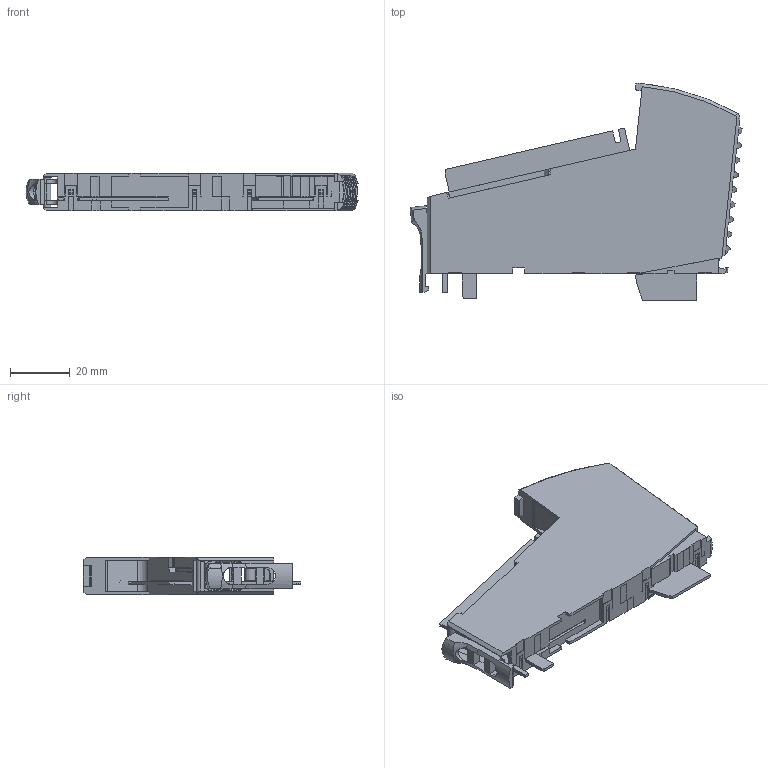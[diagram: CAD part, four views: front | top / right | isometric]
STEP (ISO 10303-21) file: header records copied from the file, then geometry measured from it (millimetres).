
FILE_DESCRIPTION((''),'2;1');
FILE_NAME('2036540','2024-05-02T08:22:29',('l.merz'),(''),'CREO PARAMETRIC BY PTC INC, 2019292','CREO PARAMETRIC BY PTC INC, 2019292','');
FILE_SCHEMA(('AUTOMOTIVE_DESIGN { 1 0 10303 214 1 1 1 1 }'));
Products named in the file (1): 2036540
Bounding box: 111.5 x 73.02 x 12.5 mm (x, y, z)
Volume: 19575.3 mm3; surface area: 37755.9 mm2
Topology: 1 solids, 1 shells, 1887 faces, 5379 edges, 3450 vertices
Faces by surface type: plane 1275, cylinder 306, bspline 100, extrusion 98, cone 88, torus 14, sphere 6
Entity records: 89628 total; most frequent: CARTESIAN_POINT 24971, ORIENTED_EDGE 10746, DIRECTION 8788, PRESENTATION_STYLE_ASSIGNMENT 5407, STYLED_ITEM 5375, CURVE_STYLE 5374, EDGE_CURVE 5373, VECTOR 4052
